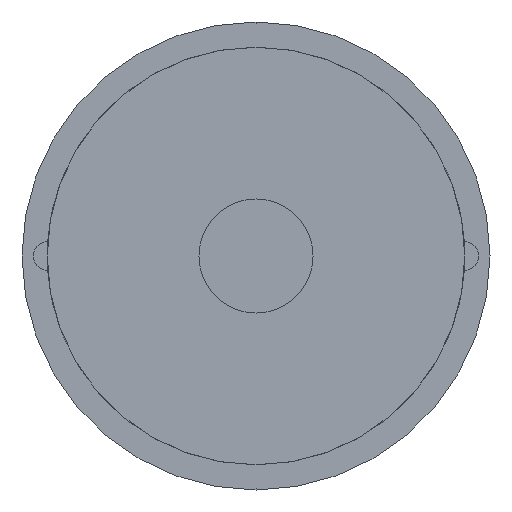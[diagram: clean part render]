
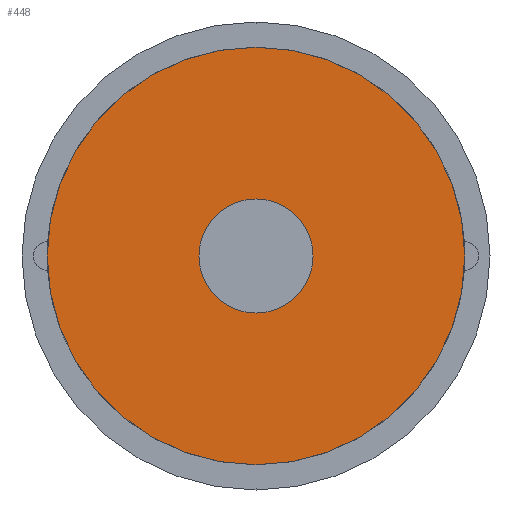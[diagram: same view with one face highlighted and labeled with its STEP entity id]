
A CAD part, front view. The second image highlights one B-rep face of the part: STEP entity #448.
In plain terms, the highlighted planar face has unit normal (0, -1, 0).
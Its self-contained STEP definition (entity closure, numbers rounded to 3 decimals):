
#30 = EDGE_CURVE ( 'NONE', #275, #160, #41, .T. ) ;
#41 = CIRCLE ( 'NONE', #79, 12. ) ;
#45 = DIRECTION ( 'NONE',  ( 0., 1., 0. ) ) ;
#68 = CIRCLE ( 'NONE', #669, 43.94 ) ;
#79 = AXIS2_PLACEMENT_3D ( 'NONE', #781, #573, #211 ) ;
#101 = AXIS2_PLACEMENT_3D ( 'NONE', #399, #45, #786 ) ;
#145 = CARTESIAN_POINT ( 'NONE',  ( 0., -10.5, 43.94 ) ) ;
#148 = DIRECTION ( 'NONE',  ( 0., 1., 0. ) ) ;
#151 = ORIENTED_EDGE ( 'NONE', *, *, #30, .T. ) ;
#160 = VERTEX_POINT ( 'NONE', #684 ) ;
#202 = FACE_BOUND ( 'NONE', #415, .T. ) ;
#207 = VERTEX_POINT ( 'NONE', #741 ) ;
#211 = DIRECTION ( 'NONE',  ( 0., 0., 1. ) ) ;
#242 = DIRECTION ( 'NONE',  ( 0., 1., 0. ) ) ;
#275 = VERTEX_POINT ( 'NONE', #433 ) ;
#295 = DIRECTION ( 'NONE',  ( 0., 0., 1. ) ) ;
#319 = EDGE_LOOP ( 'NONE', ( #656, #574 ) ) ;
#330 = CARTESIAN_POINT ( 'NONE',  ( 0., -10.5, 0. ) ) ;
#331 = VERTEX_POINT ( 'NONE', #145 ) ;
#387 = PLANE ( 'NONE',  #625 ) ;
#391 = DIRECTION ( 'NONE',  ( 0., 0., 1. ) ) ;
#399 = CARTESIAN_POINT ( 'NONE',  ( 0., -10.5, 0. ) ) ;
#415 = EDGE_LOOP ( 'NONE', ( #620, #151 ) ) ;
#433 = CARTESIAN_POINT ( 'NONE',  ( 0., -10.5, -12. ) ) ;
#446 = CARTESIAN_POINT ( 'NONE',  ( 0., -10.5, 0. ) ) ;
#448 = ADVANCED_FACE ( 'NONE', ( #539, #202 ), #387, .F. ) ;
#451 = EDGE_CURVE ( 'NONE', #207, #331, #68, .T. ) ;
#533 = EDGE_CURVE ( 'NONE', #160, #275, #727, .T. ) ;
#539 = FACE_OUTER_BOUND ( 'NONE', #319, .T. ) ;
#569 = DIRECTION ( 'NONE',  ( 0., 1., 0. ) ) ;
#573 = DIRECTION ( 'NONE',  ( 0., 1., 0. ) ) ;
#574 = ORIENTED_EDGE ( 'NONE', *, *, #451, .F. ) ;
#610 = AXIS2_PLACEMENT_3D ( 'NONE', #671, #242, #295 ) ;
#620 = ORIENTED_EDGE ( 'NONE', *, *, #533, .T. ) ;
#625 = AXIS2_PLACEMENT_3D ( 'NONE', #330, #148, #391 ) ;
#637 = DIRECTION ( 'NONE',  ( 0., 0., 1. ) ) ;
#656 = ORIENTED_EDGE ( 'NONE', *, *, #716, .F. ) ;
#663 = CIRCLE ( 'NONE', #610, 43.94 ) ;
#669 = AXIS2_PLACEMENT_3D ( 'NONE', #446, #569, #637 ) ;
#671 = CARTESIAN_POINT ( 'NONE',  ( 0., -10.5, 0. ) ) ;
#684 = CARTESIAN_POINT ( 'NONE',  ( 0., -10.5, 12. ) ) ;
#716 = EDGE_CURVE ( 'NONE', #331, #207, #663, .T. ) ;
#727 = CIRCLE ( 'NONE', #101, 12. ) ;
#741 = CARTESIAN_POINT ( 'NONE',  ( 0., -10.5, -43.94 ) ) ;
#781 = CARTESIAN_POINT ( 'NONE',  ( 0., -10.5, 0. ) ) ;
#786 = DIRECTION ( 'NONE',  ( 0., 0., 1. ) ) ;
